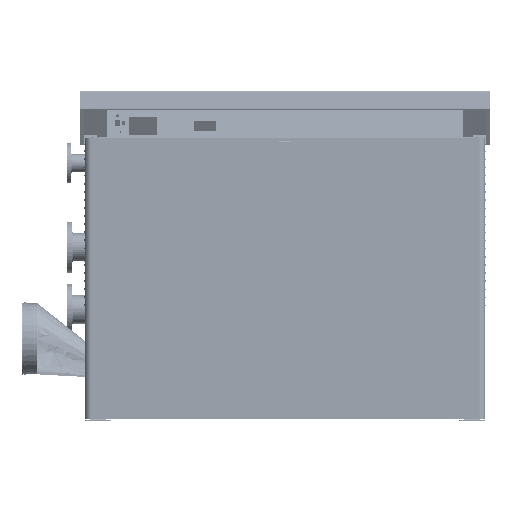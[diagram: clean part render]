
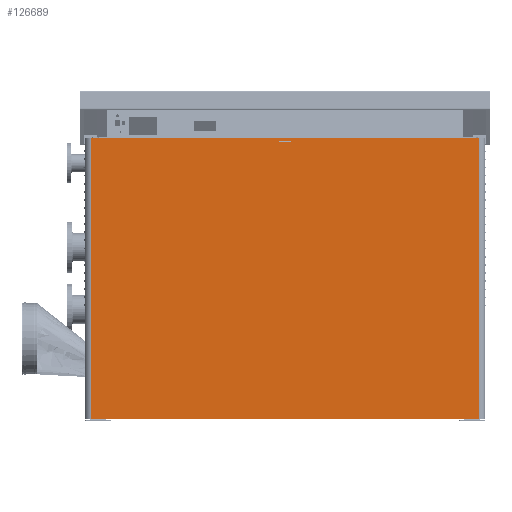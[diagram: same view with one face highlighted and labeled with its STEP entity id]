
A CAD part, front view. The second image highlights one B-rep face of the part: STEP entity #126689.
In plain terms, the highlighted planar face has unit normal (0, -1, 0).
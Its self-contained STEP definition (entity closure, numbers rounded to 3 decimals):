
#9544=LINE('',#212598,#18500);
#9606=LINE('',#212778,#18562);
#9614=LINE('',#212797,#18570);
#9620=LINE('',#212808,#18576);
#9621=LINE('',#212810,#18577);
#9622=LINE('',#212815,#18578);
#9623=LINE('',#212818,#18579);
#9624=LINE('',#212819,#18580);
#9625=LINE('',#212820,#18581);
#9626=LINE('',#212821,#18582);
#18500=VECTOR('',#166936,1000.);
#18562=VECTOR('',#167078,1000.);
#18570=VECTOR('',#167094,1000.);
#18576=VECTOR('',#167102,1000.);
#18577=VECTOR('',#167105,1000.);
#18578=VECTOR('',#167108,1000.);
#18579=VECTOR('',#167111,1000.);
#18580=VECTOR('',#167112,1000.);
#18581=VECTOR('',#167113,1000.);
#18582=VECTOR('',#167114,1000.);
#24730=PLANE('',#139239);
#45999=ORIENTED_EDGE('',*,*,#70513,.F.);
#46000=ORIENTED_EDGE('',*,*,#70514,.F.);
#46001=ORIENTED_EDGE('',*,*,#70515,.F.);
#46002=ORIENTED_EDGE('',*,*,#70516,.F.);
#46003=ORIENTED_EDGE('',*,*,#70512,.F.);
#46004=ORIENTED_EDGE('',*,*,#70409,.T.);
#46005=ORIENTED_EDGE('',*,*,#70517,.F.);
#46006=ORIENTED_EDGE('',*,*,#70518,.T.);
#46007=ORIENTED_EDGE('',*,*,#70519,.F.);
#46008=ORIENTED_EDGE('',*,*,#70496,.T.);
#46009=ORIENTED_EDGE('',*,*,#70506,.F.);
#46010=ORIENTED_EDGE('',*,*,#70520,.T.);
#70409=EDGE_CURVE('',#84377,#84376,#9544,.T.);
#70496=EDGE_CURVE('',#84448,#84449,#9606,.T.);
#70506=EDGE_CURVE('',#84454,#84449,#9614,.T.);
#70512=EDGE_CURVE('',#84377,#84457,#9620,.T.);
#70513=EDGE_CURVE('',#84459,#84460,#9621,.T.);
#70514=EDGE_CURVE('',#84461,#84459,#93795,.T.);
#70515=EDGE_CURVE('',#84462,#84461,#9622,.T.);
#70516=EDGE_CURVE('',#84460,#84462,#93796,.T.);
#70517=EDGE_CURVE('',#84436,#84376,#9623,.T.);
#70518=EDGE_CURVE('',#84436,#84447,#9624,.T.);
#70519=EDGE_CURVE('',#84448,#84447,#9625,.T.);
#70520=EDGE_CURVE('',#84454,#84457,#9626,.T.);
#84376=VERTEX_POINT('',#212597);
#84377=VERTEX_POINT('',#212599);
#84436=VERTEX_POINT('',#212749);
#84447=VERTEX_POINT('',#212772);
#84448=VERTEX_POINT('',#212779);
#84449=VERTEX_POINT('',#212780);
#84454=VERTEX_POINT('',#212796);
#84457=VERTEX_POINT('',#212804);
#84459=VERTEX_POINT('',#212811);
#84460=VERTEX_POINT('',#212812);
#84461=VERTEX_POINT('',#212814);
#84462=VERTEX_POINT('',#212816);
#93795=CIRCLE('',#139240,3.);
#93796=CIRCLE('',#139241,3.);
#101995=EDGE_LOOP('',(#45999,#46000,#46001,#46002));
#101996=EDGE_LOOP('',(#46003,#46004,#46005,#46006,#46007,#46008,#46009,
#46010));
#111246=FACE_BOUND('',#101995,.T.);
#111247=FACE_BOUND('',#101996,.T.);
#126689=ADVANCED_FACE('',(#111246,#111247),#24730,.T.);
#139239=AXIS2_PLACEMENT_3D('',#212809,#167103,#167104);
#139240=AXIS2_PLACEMENT_3D('',#212813,#167106,#167107);
#139241=AXIS2_PLACEMENT_3D('',#212817,#167109,#167110);
#166936=DIRECTION('',(0.,0.,-1.));
#167078=DIRECTION('',(0.,0.,1.));
#167094=DIRECTION('',(1.,0.,0.));
#167102=DIRECTION('',(1.,0.,0.));
#167103=DIRECTION('',(0.,-1.,0.));
#167104=DIRECTION('',(0.,0.,-1.));
#167105=DIRECTION('',(1.,0.,0.));
#167106=DIRECTION('',(0.,-1.,0.));
#167107=DIRECTION('',(1.,0.,0.));
#167108=DIRECTION('',(-1.,0.,0.));
#167109=DIRECTION('',(0.,-1.,0.));
#167110=DIRECTION('',(-1.,0.,0.));
#167111=DIRECTION('',(-1.,0.,0.));
#167112=DIRECTION('',(1.,0.,0.));
#167113=DIRECTION('',(-1.,0.,0.));
#167114=DIRECTION('',(-1.,0.,0.));
#212597=CARTESIAN_POINT('',(-957.5,0.,-692.998));
#212598=CARTESIAN_POINT('',(-957.5,0.,694.));
#212599=CARTESIAN_POINT('',(-957.5,0.,692.998));
#212749=CARTESIAN_POINT('',(-957.498,0.,-692.998));
#212772=CARTESIAN_POINT('',(957.498,0.,-692.998));
#212778=CARTESIAN_POINT('',(957.5,0.,-694.));
#212779=CARTESIAN_POINT('',(957.5,0.,-692.998));
#212780=CARTESIAN_POINT('',(957.5,0.,692.998));
#212796=CARTESIAN_POINT('',(957.498,0.,692.998));
#212797=CARTESIAN_POINT('',(957.5,0.,692.998));
#212804=CARTESIAN_POINT('',(-957.498,0.,692.998));
#212808=CARTESIAN_POINT('',(957.5,0.,692.998));
#212809=CARTESIAN_POINT('',(-988.5,0.,-694.));
#212810=CARTESIAN_POINT('',(28.,0.,671.));
#212811=CARTESIAN_POINT('',(-28.,0.,671.));
#212812=CARTESIAN_POINT('',(28.,0.,671.));
#212813=CARTESIAN_POINT('',(-28.,0.,674.));
#212814=CARTESIAN_POINT('',(-28.,0.,677.));
#212815=CARTESIAN_POINT('',(-28.,0.,677.));
#212816=CARTESIAN_POINT('',(28.,0.,677.));
#212817=CARTESIAN_POINT('',(28.,0.,674.));
#212818=CARTESIAN_POINT('',(-957.5,0.,-692.998));
#212819=CARTESIAN_POINT('',(-957.498,0.,-692.998));
#212820=CARTESIAN_POINT('',(-957.5,0.,-692.998));
#212821=CARTESIAN_POINT('',(957.498,0.,692.998));
